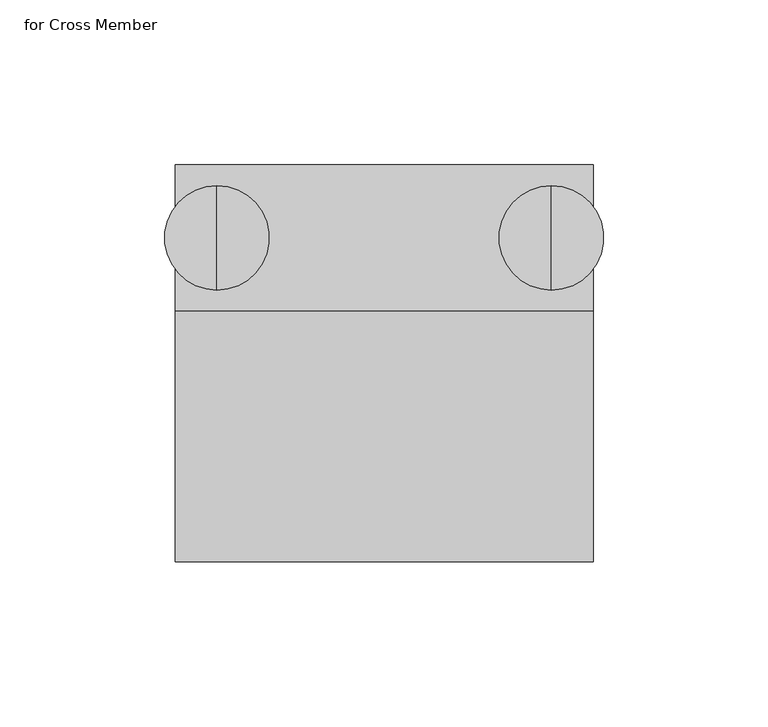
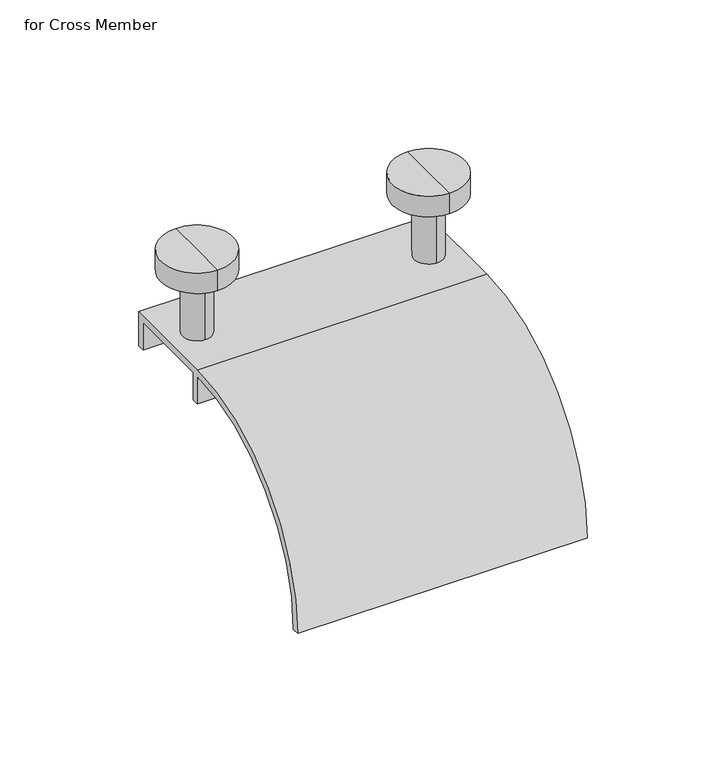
"""IFC4 building model written with IfcOpenShell, lengths in millimetres: electric appliance geometry, Cable_Tray_Accessory-Chatsworth-Radius Drop : for Cross Member."""

from ifc_helpers import new_model, si_unit, point, frame, frame_2d, origin, place, context, project, spatial, polyline, circle_curve, trimmed, segment, composite_curve, outline, extrude, source, transform, mapped, element, save
from ifc_brep_helpers import plane_surface, cylinder_surface, advanced_brep


def for_cross_member_4c8ecc23(model_context):
    return source(origin(), model_context, "Body", "SolidModel", [
        advanced_brep(
        [(50.8, 0.0, 41.275), (50.8, -15.875, 41.275), (50.8, 15.875, 41.275), (50.8, -15.875, 31.75), (50.8, 15.875, 31.75), (50.8, -6.35, 31.75), (50.8, 6.35, 31.75), (50.8, -6.35, 3.175), (50.8, 6.35, 3.175), (50.8, 0.0, 3.175)],
        [
            (0, 1),
            (1, 2, circle_curve(frame((50.8, 0.0, 41.275), z_axis=(0.0, 0.0, 1.0), x_axis=(0.0, -1.0, 0.0)), 15.875)),
            (2, 0),
            (2, 1, circle_curve(frame((50.8, 0.0, 41.275), z_axis=(0.0, 0.0, 1.0), x_axis=(0.0, -1.0, 0.0)), 15.875)),
            (1, 3),
            (3, 4, circle_curve(frame((50.8, 0.0, 31.75), z_axis=(0.0, 0.0, 1.0), x_axis=(0.0, -1.0, 0.0)), 15.875)),
            (4, 2),
            (4, 3, circle_curve(frame((50.8, 0.0, 31.75), z_axis=(0.0, 0.0, 1.0), x_axis=(0.0, -1.0, 0.0)), 15.875)),
            (3, 5),
            (5, 6, circle_curve(frame((50.8, 0.0, 31.75), z_axis=(0.0, 0.0, 1.0), x_axis=(0.0, -1.0, 0.0)), 6.35)),
            (6, 4),
            (6, 5, circle_curve(frame((50.8, 0.0, 31.75), z_axis=(0.0, 0.0, 1.0), x_axis=(0.0, -1.0, 0.0)), 6.35)),
            (5, 7),
            (7, 8, circle_curve(frame((50.8, 0.0, 3.175), z_axis=(0.0, 0.0, 1.0), x_axis=(0.0, -1.0, 0.0)), 6.35)),
            (8, 6),
            (8, 7, circle_curve(frame((50.8, 0.0, 3.175), z_axis=(0.0, 0.0, 1.0), x_axis=(0.0, -1.0, 0.0)), 6.35)),
            (7, 9),
            (9, 8),
        ],
        [
            plane_surface(frame((50.8, 0.0, 41.275), z_axis=(0.0, 0.0, 1.0), x_axis=(0.0, -1.0, 0.0))),
            cylinder_surface(frame((50.8, 0.0, -165.1), z_axis=(0.0, 0.0, 1.0), x_axis=(0.0, -1.0, 0.0)), 15.875),
            plane_surface(frame((50.8, 0.0, 31.75), z_axis=(0.0, 0.0, -1.0), x_axis=(0.0, -1.0, 0.0))),
            cylinder_surface(frame((50.8, 0.0, -165.1), z_axis=(0.0, 0.0, 1.0), x_axis=(0.0, -1.0, 0.0)), 6.35),
            plane_surface(frame((50.8, 0.0, 3.175), z_axis=(0.0, 0.0, -1.0), x_axis=(0.0, -1.0, 0.0))),
        ],
        [
            (0, [[1, 2, 3]]),
            (0, [[-3, 4, -1]]),
            (1, [[-2, 5, 6, 7]]),
            (1, [[-4, -7, 8, -5]]),
            (2, [[-6, 9, 10, 11]]),
            (2, [[-8, -11, 12, -9]]),
            (3, [[-10, 13, 14, 15]]),
            (3, [[-12, -15, 16, -13]]),
            (4, [[-14, 17, 18]]),
            (4, [[-16, -18, -17]]),
        ],
    ),
        advanced_brep(
        [(-50.8, 0.0, 41.275), (-50.8, -15.875, 41.275), (-50.8, 15.875, 41.275), (-50.8, -15.875, 31.75), (-50.8, 15.875, 31.75), (-50.8, -6.35, 31.75), (-50.8, 6.35, 31.75), (-50.8, -6.35, 3.175), (-50.8, 6.35, 3.175), (-50.8, 0.0, 3.175)],
        [
            (0, 1),
            (1, 2, circle_curve(frame((-50.8, 0.0, 41.275), z_axis=(0.0, 0.0, 1.0), x_axis=(0.0, -1.0, 0.0)), 15.875)),
            (2, 0),
            (2, 1, circle_curve(frame((-50.8, 0.0, 41.275), z_axis=(0.0, 0.0, 1.0), x_axis=(0.0, -1.0, 0.0)), 15.875)),
            (1, 3),
            (3, 4, circle_curve(frame((-50.8, 0.0, 31.75), z_axis=(0.0, 0.0, 1.0), x_axis=(0.0, -1.0, 0.0)), 15.875)),
            (4, 2),
            (4, 3, circle_curve(frame((-50.8, 0.0, 31.75), z_axis=(0.0, 0.0, 1.0), x_axis=(0.0, -1.0, 0.0)), 15.875)),
            (3, 5),
            (5, 6, circle_curve(frame((-50.8, 0.0, 31.75), z_axis=(0.0, 0.0, 1.0), x_axis=(0.0, -1.0, 0.0)), 6.35)),
            (6, 4),
            (6, 5, circle_curve(frame((-50.8, 0.0, 31.75), z_axis=(0.0, 0.0, 1.0), x_axis=(0.0, -1.0, 0.0)), 6.35)),
            (5, 7),
            (7, 8, circle_curve(frame((-50.8, 0.0, 3.175), z_axis=(0.0, 0.0, 1.0), x_axis=(0.0, -1.0, 0.0)), 6.35)),
            (8, 6),
            (8, 7, circle_curve(frame((-50.8, 0.0, 3.175), z_axis=(0.0, 0.0, 1.0), x_axis=(0.0, -1.0, 0.0)), 6.35)),
            (7, 9),
            (9, 8),
        ],
        [
            plane_surface(frame((-50.8, 0.0, 41.275), z_axis=(0.0, 0.0, 1.0), x_axis=(0.0, -1.0, 0.0))),
            cylinder_surface(frame((-50.8, 0.0, -165.1), z_axis=(0.0, 0.0, 1.0), x_axis=(0.0, -1.0, 0.0)), 15.875),
            plane_surface(frame((-50.8, 0.0, 31.75), z_axis=(0.0, 0.0, -1.0), x_axis=(0.0, -1.0, 0.0))),
            cylinder_surface(frame((-50.8, 0.0, -165.1), z_axis=(0.0, 0.0, 1.0), x_axis=(0.0, -1.0, 0.0)), 6.35),
            plane_surface(frame((-50.8, 0.0, 3.175), z_axis=(0.0, 0.0, -1.0), x_axis=(0.0, -1.0, 0.0))),
        ],
        [
            (0, [[1, 2, 3]]),
            (0, [[-3, 4, -1]]),
            (1, [[-2, 5, 6, 7]]),
            (1, [[-4, -7, 8, -5]]),
            (2, [[-6, 9, 10, 11]]),
            (2, [[-8, -11, 12, -9]]),
            (3, [[-10, 13, 14, 15]]),
            (3, [[-12, -15, 16, -13]]),
            (4, [[-14, 17, 18]]),
            (4, [[-16, -18, -17]]),
        ],
    ),
        extrude(outline(composite_curve([segment(polyline([(22.225, 3.175), (22.225, -12.7), (19.05, -12.7), (19.05, 0.0), (-19.05, 0.0), (-19.05, -12.7), (-22.225, -12.7), (-22.225, 0.0)]), True, "CONTINUOUS"), segment(trimmed(circle_curve(frame_2d((-22.225, -73.025)), 73.025), [point((-22.225, 0.0))], [point((-95.25, -73.025))], True, "CARTESIAN"), True, "CONTINUOUS"), segment(polyline([(-95.25, -73.025), (-98.425, -73.025)]), True, "CONTINUOUS"), segment(trimmed(circle_curve(frame_2d((-22.225, -73.025)), 76.2), [point((-98.425, -73.025))], [point((-22.225, 3.175))], False, "CARTESIAN"), True, "CONTINUOUS"), segment(polyline([(-22.225, 3.175), (22.225, 3.175)]), True, "CONTINUOUS")], self_intersect=False)), frame((-63.5, 0.0, 0.0), z_axis=(1.0, 0.0, 0.0), x_axis=(0.0, 1.0, 0.0)), (0.0, 0.0, 1.0), 127.0),
    ])


if __name__ == "__main__":
    model = new_model("IFC4")
    model_context = context("Model", 3, world=origin())
    ifc_project = project(units=[si_unit("LENGTHUNIT", "METRE", prefix="MILLI")], contexts=[model_context])
    site = spatial("IfcSite", under=ifc_project)
    building = spatial("IfcBuilding", under=site)
    placement = place(None, origin())
    for_cross_member_shape = for_cross_member_4c8ecc23(model_context)
    element("IfcElectricAppliance", 1, ObjectType="Cable_Tray_Accessory-Chatsworth-Radius Drop : for Cross Member", at=placement, inside=building, context=model_context, shape_type="MappedRepresentation", body=[
        mapped(for_cross_member_shape, transform((0.0, 0.0, 0.0), x_axis=(1.0, 0.0, 0.0), y_axis=(0.0, 1.0, 0.0), z_axis=(0.0, 0.0, 1.0))),
    ])
    save(model, "model.ifc")
